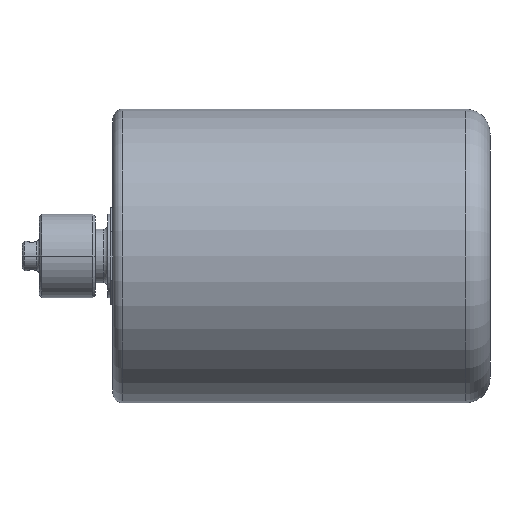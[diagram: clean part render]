
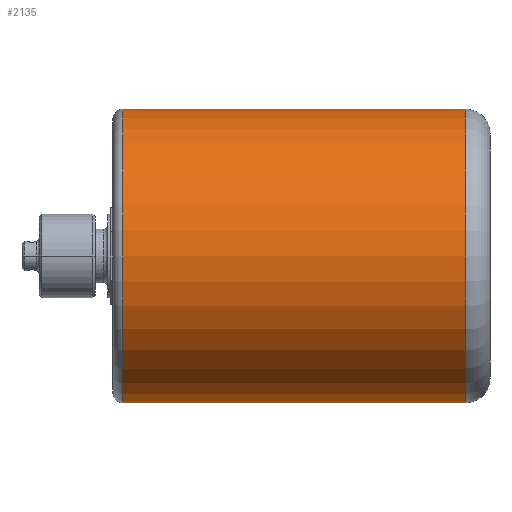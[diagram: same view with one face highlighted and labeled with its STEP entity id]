
A CAD part, left-side view. The second image highlights one B-rep face of the part: STEP entity #2135.
In plain terms, the highlighted cylindrical face has radius 30 mm (diameter 60 mm), a partial arc.
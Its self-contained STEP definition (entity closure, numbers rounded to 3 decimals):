
#2 = CARTESIAN_POINT ( 'NONE',  ( 0., 5., 0. ) ) ;
#57 = ORIENTED_EDGE ( 'NONE', *, *, #597, .T. ) ;
#79 = CARTESIAN_POINT ( 'NONE',  ( 0., 5., 30. ) ) ;
#561 = ORIENTED_EDGE ( 'NONE', *, *, #2119, .F. ) ;
#597 = EDGE_CURVE ( 'NONE', #4881, #5055, #2634, .T. ) ;
#639 = AXIS2_PLACEMENT_3D ( 'NONE', #2, #1096, #1502 ) ;
#757 = CYLINDRICAL_SURFACE ( 'NONE', #5300, 30. ) ;
#1035 = EDGE_CURVE ( 'NONE', #3632, #5785, #5219, .T. ) ;
#1096 = DIRECTION ( 'NONE',  ( 0., -1., 0. ) ) ;
#1242 = VECTOR ( 'NONE', #5233, 1000. ) ;
#1502 = DIRECTION ( 'NONE',  ( 0., 0., -1. ) ) ;
#2119 = EDGE_CURVE ( 'NONE', #4881, #3632, #3875, .T. ) ;
#2135 = ADVANCED_FACE ( 'NONE', ( #3770 ), #757, .T. ) ;
#2230 = DIRECTION ( 'NONE',  ( 0., -1., 0. ) ) ;
#2272 = ORIENTED_EDGE ( 'NONE', *, *, #1035, .F. ) ;
#2634 = CIRCLE ( 'NONE', #3078, 30. ) ;
#2678 = DIRECTION ( 'NONE',  ( 0., -1., 0. ) ) ;
#2718 = CARTESIAN_POINT ( 'NONE',  ( 0., 75., 0. ) ) ;
#3078 = AXIS2_PLACEMENT_3D ( 'NONE', #2718, #2678, #3811 ) ;
#3338 = CARTESIAN_POINT ( 'NONE',  ( 0., 0., 30. ) ) ;
#3632 = VERTEX_POINT ( 'NONE', #79 ) ;
#3770 = FACE_OUTER_BOUND ( 'NONE', #4063, .T. ) ;
#3811 = DIRECTION ( 'NONE',  ( 0., 0., -1. ) ) ;
#3875 = LINE ( 'NONE', #3338, #1242 ) ;
#4063 = EDGE_LOOP ( 'NONE', ( #561, #57, #6566, #2272 ) ) ;
#4160 = LINE ( 'NONE', #6198, #4276 ) ;
#4276 = VECTOR ( 'NONE', #5206, 1000. ) ;
#4714 = DIRECTION ( 'NONE',  ( 0., 0., -1. ) ) ;
#4881 = VERTEX_POINT ( 'NONE', #5662 ) ;
#5055 = VERTEX_POINT ( 'NONE', #5716 ) ;
#5206 = DIRECTION ( 'NONE',  ( 0., -1., 0. ) ) ;
#5219 = CIRCLE ( 'NONE', #639, 30. ) ;
#5233 = DIRECTION ( 'NONE',  ( 0., -1., 0. ) ) ;
#5300 = AXIS2_PLACEMENT_3D ( 'NONE', #5398, #2230, #4714 ) ;
#5398 = CARTESIAN_POINT ( 'NONE',  ( 0., 0., 0. ) ) ;
#5662 = CARTESIAN_POINT ( 'NONE',  ( 0., 75., 30. ) ) ;
#5716 = CARTESIAN_POINT ( 'NONE',  ( 0., 75., -30. ) ) ;
#5785 = VERTEX_POINT ( 'NONE', #6328 ) ;
#6198 = CARTESIAN_POINT ( 'NONE',  ( 0., 0., -30. ) ) ;
#6328 = CARTESIAN_POINT ( 'NONE',  ( 0., 5., -30. ) ) ;
#6490 = EDGE_CURVE ( 'NONE', #5055, #5785, #4160, .T. ) ;
#6566 = ORIENTED_EDGE ( 'NONE', *, *, #6490, .T. ) ;
